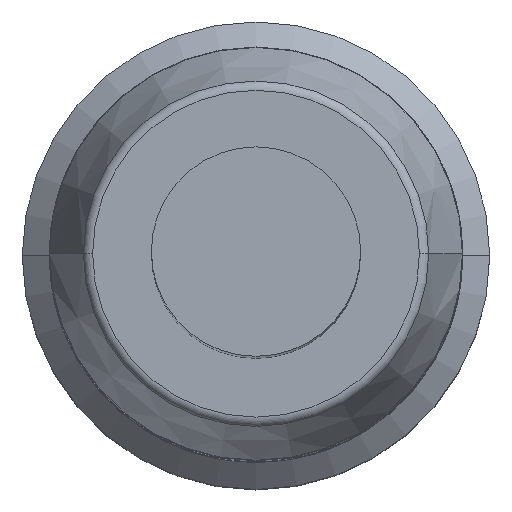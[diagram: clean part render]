
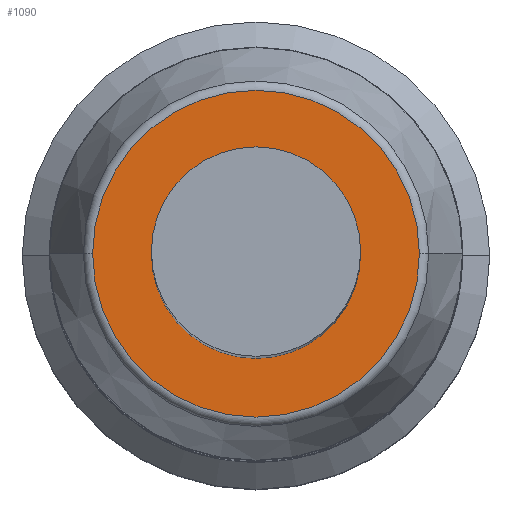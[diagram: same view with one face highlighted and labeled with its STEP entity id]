
A CAD part, top view. The second image highlights one B-rep face of the part: STEP entity #1090.
In plain terms, the highlighted planar face has unit normal (0, 0, 1).
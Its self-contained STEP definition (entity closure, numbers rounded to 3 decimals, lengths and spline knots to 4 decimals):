
#740=CARTESIAN_POINT('',(-1.75,0.,22.32));
#750=DIRECTION('',(0.,0.,-1.));
#760=DIRECTION('',(1.,0.,0.));
#770=AXIS2_PLACEMENT_3D('',#740,#750,#760);
#780=PLANE('',#770);
#790=CARTESIAN_POINT('',(0.,0.,
22.32));
#800=DIRECTION('',(0.,0.,-1.));
#810=DIRECTION('',(-1.,0.,0.));
#820=AXIS2_PLACEMENT_3D('',#790,#800,#810);
#830=CIRCLE('',#820,2.15);
#840=CARTESIAN_POINT('',(-2.15,0.,22.32));
#850=VERTEX_POINT('',#840);
#860=CARTESIAN_POINT('',(2.15,0.,22.32));
#870=VERTEX_POINT('',#860);
#880=EDGE_CURVE('',#850,#870,#830,.T.);
#890=ORIENTED_EDGE('',*,*,#880,.T.);
#900=EDGE_CURVE('',#870,#850,#830,.T.);
#910=ORIENTED_EDGE('',*,*,#900,.T.);
#920=EDGE_LOOP('',(#910,#890));
#930=FACE_BOUND('',#920,.T.);
#940=CARTESIAN_POINT('',(0.,0.,
22.32));
#950=DIRECTION('',(0.,0.,1.));
#960=DIRECTION('',(1.,0.,0.));
#970=AXIS2_PLACEMENT_3D('',#940,#950,#960);
#980=CIRCLE('',#970,3.3558);
#990=CARTESIAN_POINT('',(-3.3558,0.,22.32));
#1000=VERTEX_POINT('',#990);
#1010=CARTESIAN_POINT('',(3.3558,0.,22.32));
#1020=VERTEX_POINT('',#1010);
#1030=EDGE_CURVE('',#1000,#1020,#980,.T.);
#1040=ORIENTED_EDGE('',*,*,#1030,.T.);
#1050=EDGE_CURVE('',#1020,#1000,#980,.T.);
#1060=ORIENTED_EDGE('',*,*,#1050,.T.);
#1070=EDGE_LOOP('',(#1060,#1040));
#1080=FACE_OUTER_BOUND('',#1070,.T.);
#1090=ADVANCED_FACE('',(#930,#1080),#780,.F.);
